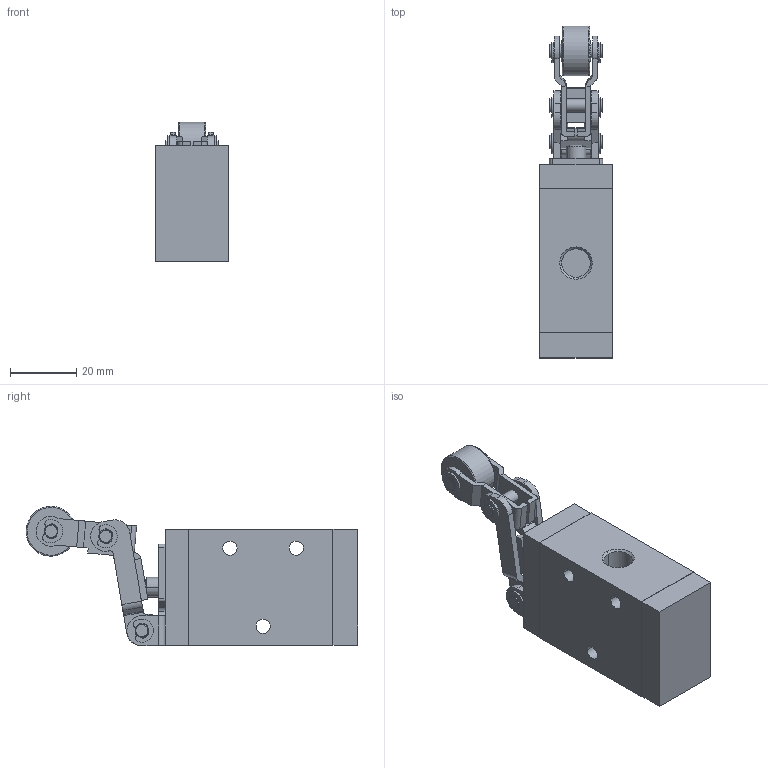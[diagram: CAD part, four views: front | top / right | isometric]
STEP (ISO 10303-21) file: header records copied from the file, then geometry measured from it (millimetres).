
FILE_DESCRIPTION (( 'STEP AP214' ), '1' );
FILE_NAME ('M3-L-210-06-G (3D).STEP', '2019-11-12T09:35:06', ( '' ), ( '' ), 'SwSTEP 2.0', 'SolidWorks 2016', '' );
FILE_SCHEMA (( 'AUTOMOTIVE_DESIGN' ));
Length unit declared in the file: millimetre
Products named in the file (6): _R Type Roller; M3-L-210-06-G (3D); M3-B-210-06-G (3D)_M3-L-210-06-G; _L Type Swinging Arm; _R Type Roller Base; _Roller holder
Assembly tree (5 placements, depth 2):
  M3-L-210-06-G (3D)
    _Roller holder
    _R Type Roller Base
    _L Type Swinging Arm
    _R Type Roller
    M3-B-210-06-G (3D)_M3-L-210-06-G
Bounding box: 22 x 99.81 x 41.92 mm (x, y, z)
Volume: 46899.7 mm3; surface area: 16358 mm2
Topology: 5 solids, 5 shells, 646 faces, 1747 edges, 1140 vertices
Faces by surface type: plane 338, cylinder 193, bspline 77, cone 38
Entity records: 27179 total; most frequent: CARTESIAN_POINT 8032, ORIENTED_EDGE 3494, DIRECTION 3243, EDGE_CURVE 1747, VERTEX_POINT 1140, AXIS2_PLACEMENT_3D 1087, LINE 1069, VECTOR 1069
